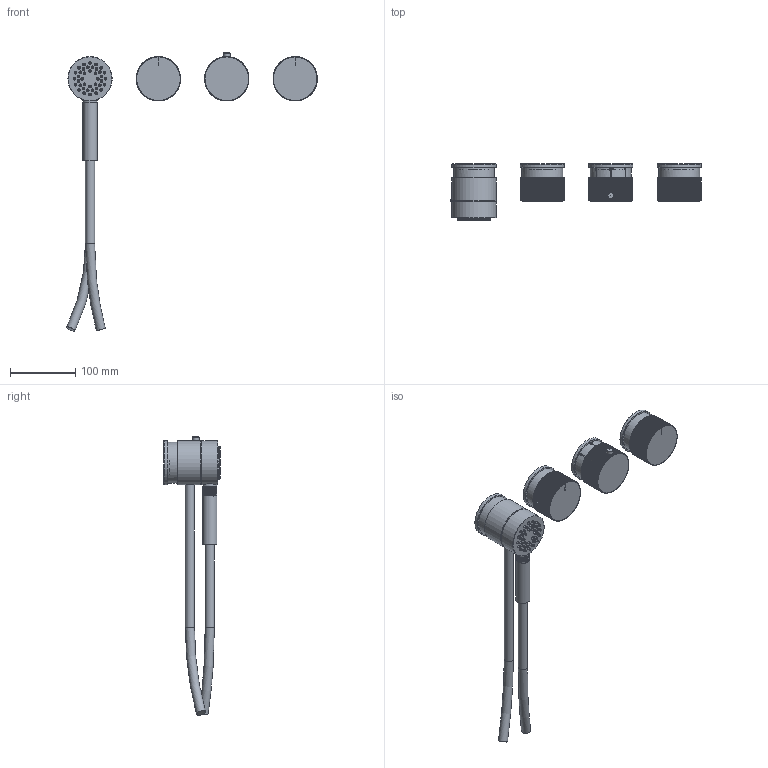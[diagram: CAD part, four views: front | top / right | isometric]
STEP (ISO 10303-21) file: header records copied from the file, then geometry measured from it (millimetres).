
FILE_DESCRIPTION(/* description */ ('Unknown'),/* implementation_level */ '2;1');
FILE_NAME(/* name */ 'RE030',/* time_stamp */ '2023-11-29T08:31:17+01:00',/* author */ ('Unknown'),/* organization */ ('Unknown'),/* preprocessor_version */ 'ST-DEVELOPER v18.102',/* originating_system */ 'Solid Edge',/* authorisation */ 'Unknown');
FILE_SCHEMA (('AUTOMOTIVE_DESIGN {1 0 10303 214 3 1 1}'));
Length unit declared in the file: millimetre
Products named in the file (16): RE030.EXT; RE025-001_oa_0; RE025-06; RE025-07; RE025-05; RE025-03; RE029-04; RE029-07; RE032_oa_1; RE032-01; RE032-02; RE032-06; RE032-08; RE032-03; RE032-001_oa_2; tubo flessibile
Assembly tree (18 placements, depth 4):
  RE030.EXT
    RE025-001_oa_0
      RE025-06
      RE025-07
    RE025-05  x2
    RE025-03
    RE029-04  x3
    RE029-07
    RE032_oa_1
      RE032-01
      RE032-02
      RE032-06
      RE032-08
      RE032-03
      RE032-001_oa_2
        tubo flessibile
Bounding box: 384.87 x 86.18 x 427.73 mm (x, y, z)
Volume: 362996.1 mm3; surface area: 250481.3 mm2
Topology: 16 solids, 16 shells, 3689 faces, 8514 edges, 4962 vertices
Faces by surface type: plane 1386, cone 1257, cylinder 821, bspline 126, torus 98, sphere 1
Full cylindrical faces by diameter (mm): 3.3 x21, 4 x40, 4.1 x1, 4.3 x1, 4.5 x1, 4.917 x3, 5 x2, 6 x1, 6.5 x3, 7.5 x1, 9.95 x1, 10 x4, 10.1 x2, 11.2 x1, 12 x1, 12.1 x3, 12.5 x1, 13.3 x1, 13.5 x1, 14 x3, 14.5 x1, 15 x2, 15.4 x2, 16 x2, 16.5 x1, 17 x1, 17.1 x1, 18 x1, 18.2 x8, 19 x1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
Entity records: 100627 total; most frequent: CARTESIAN_POINT 31054, ORIENTED_EDGE 11144, DIRECTION 10876, EDGE_CURVE 5572, AXIS2_PLACEMENT_3D 4735, VERTEX_POINT 3409, FACE_BOUND 3299, EDGE_LOOP 3294
